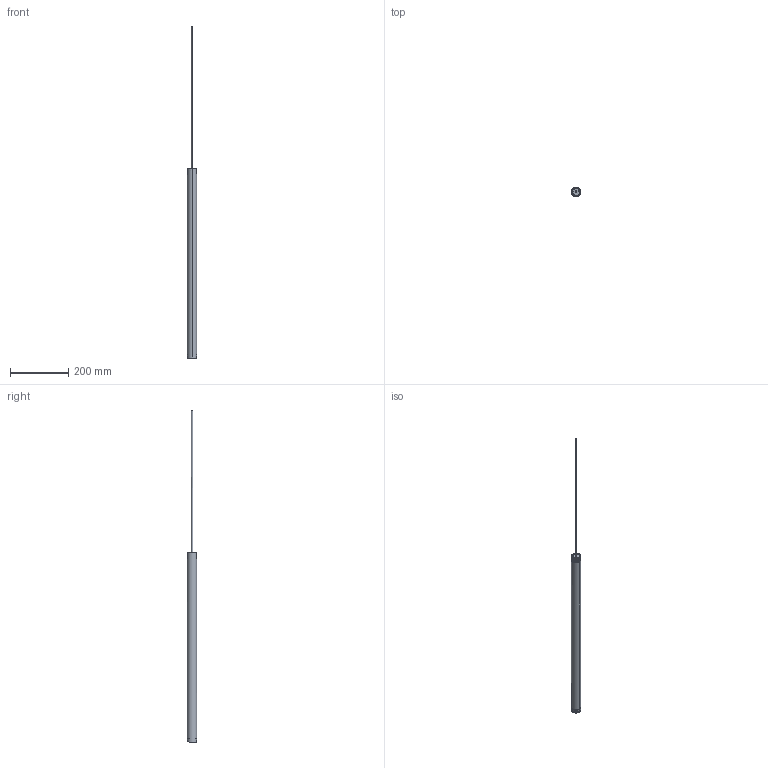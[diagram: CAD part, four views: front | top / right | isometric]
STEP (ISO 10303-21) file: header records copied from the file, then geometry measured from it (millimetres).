
FILE_DESCRIPTION(/* description */ (''),/* implementation_level */ '2;1');
FILE_NAME(/* name */ 'To-be M026__.065',/* time_stamp */ '2025-05-27T16:52:04+02:00',/* author */ (''),/* organization */ (''),/* preprocessor_version */ 'ST-DEVELOPER v16.5',/* originating_system */ '',/* authorisation */ '');
FILE_SCHEMA (('AUTOMOTIVE_DESIGN'));
Length unit declared in the file: millimetre
Products named in the file (5): Document; 3400.0080000.00 (cavo FEP+PVC 2x0,75 trasparente)_3401.0080500.00; 3300.0057000.00 (tubo ALL D 32mm sp 2)_3305.0057065.00; 3300.0036000.00 (testata di chiusura OTTONE D 28,9mm H 9mm)_3306.0036
000.00; 3100.0005000.00 (schermo circolare PC sp 0,5)_3104.0005002.00
Assembly tree (4 placements, depth 2):
  Document
    3400.0080000.00 (cavo FEP+PVC 2x0,75 trasparente)_3401.0080500.00
    3300.0057000.00 (tubo ALL D 32mm sp 2)_3305.0057065.00
    3300.0036000.00 (testata di chiusura OTTONE D 28,9mm H 9mm)_3306.0036
000.00
    3100.0005000.00 (schermo circolare PC sp 0,5)_3104.0005002.00
Bounding box: 31.94 x 32 x 1141 mm (x, y, z)
Volume: 137391.9 mm3; surface area: 145174.7 mm2
Topology: 6 solids, 6 shells, 129 faces, 319 edges, 202 vertices
Faces by surface type: bspline 112, plane 17
Entity records: 8833 total; most frequent: CARTESIAN_POINT 6952, ORIENTED_EDGE 630, EDGE_CURVE 315, VERTEX_POINT 202, EDGE_LOOP 141, ADVANCED_FACE 129, FACE_OUTER_BOUND 129, B_SPLINE_CURVE_WITH_KNOTS 121
